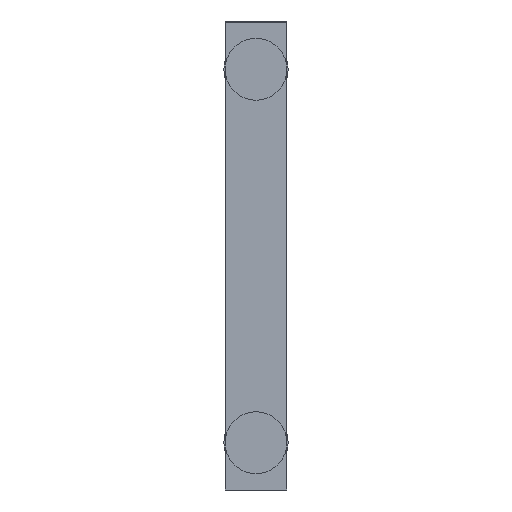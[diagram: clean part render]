
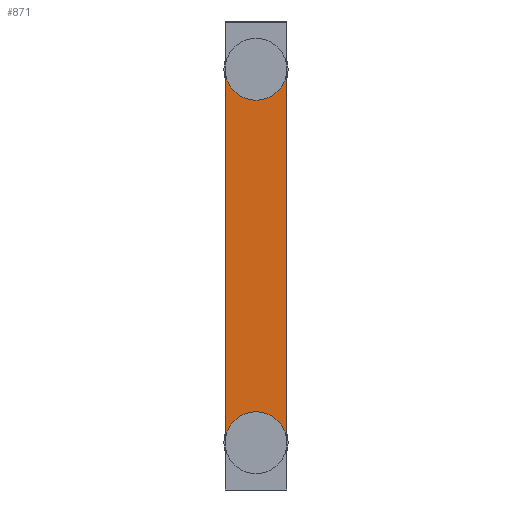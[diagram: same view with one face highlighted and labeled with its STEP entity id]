
A CAD part, front view. The second image highlights one B-rep face of the part: STEP entity #871.
In plain terms, the highlighted planar face has unit normal (0, -1, 0).
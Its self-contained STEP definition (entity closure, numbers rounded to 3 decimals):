
#21 = CARTESIAN_POINT ( 'NONE',  ( -9.35, -36.997, 12.992 ) ) ;
#24 = VECTOR ( 'NONE', #628, 1000. ) ;
#72 = CARTESIAN_POINT ( 'NONE',  ( -12., -36.998, 44.992 ) ) ;
#102 = ORIENTED_EDGE ( 'NONE', *, *, #847, .F. ) ;
#133 = VECTOR ( 'NONE', #951, 1000. ) ;
#172 = DIRECTION ( 'NONE',  ( 0., -1., 0. ) ) ;
#234 = CARTESIAN_POINT ( 'NONE',  ( -14.65, -36.997, 12.992 ) ) ;
#240 = EDGE_CURVE ( 'NONE', #864, #934, #1147, .T. ) ;
#276 = CARTESIAN_POINT ( 'NONE',  ( -14.65, -36.998, 44.992 ) ) ;
#339 = EDGE_LOOP ( 'NONE', ( #102, #1183, #941, #956 ) ) ;
#352 = CARTESIAN_POINT ( 'NONE',  ( -12., -36.997, 12.992 ) ) ;
#363 = VERTEX_POINT ( 'NONE', #276 ) ;
#369 = CARTESIAN_POINT ( 'NONE',  ( -9.35, -36.998, 44.992 ) ) ;
#388 = CIRCLE ( 'NONE', #1293, 2.65 ) ;
#440 = LINE ( 'NONE', #1042, #133 ) ;
#472 = AXIS2_PLACEMENT_3D ( 'NONE', #72, #172, #776 ) ;
#528 = DIRECTION ( 'NONE',  ( -1., 0., 0. ) ) ;
#627 = DIRECTION ( 'NONE',  ( 0., 1., 0. ) ) ;
#628 = DIRECTION ( 'NONE',  ( 0., 0., -1. ) ) ;
#676 = CIRCLE ( 'NONE', #472, 2.65 ) ;
#686 = EDGE_CURVE ( 'NONE', #363, #998, #440, .T. ) ;
#752 = EDGE_CURVE ( 'NONE', #998, #934, #388, .T. ) ;
#769 = FACE_OUTER_BOUND ( 'NONE', #339, .T. ) ;
#776 = DIRECTION ( 'NONE',  ( 1., 0., 0. ) ) ;
#847 = EDGE_CURVE ( 'NONE', #363, #864, #676, .T. ) ;
#864 = VERTEX_POINT ( 'NONE', #369 ) ;
#871 = ADVANCED_FACE ( 'NONE', ( #769 ), #1079, .F. ) ;
#934 = VERTEX_POINT ( 'NONE', #21 ) ;
#941 = ORIENTED_EDGE ( 'NONE', *, *, #752, .T. ) ;
#951 = DIRECTION ( 'NONE',  ( 0., 0., -1. ) ) ;
#956 = ORIENTED_EDGE ( 'NONE', *, *, #240, .F. ) ;
#981 = DIRECTION ( 'NONE',  ( 0., 0., 1. ) ) ;
#998 = VERTEX_POINT ( 'NONE', #234 ) ;
#1042 = CARTESIAN_POINT ( 'NONE',  ( -14.65, -36.998, 28.992 ) ) ;
#1079 = PLANE ( 'NONE',  #1088 ) ;
#1088 = AXIS2_PLACEMENT_3D ( 'NONE', #1177, #1162, #981 ) ;
#1147 = LINE ( 'NONE', #1152, #24 ) ;
#1152 = CARTESIAN_POINT ( 'NONE',  ( -9.35, -36.998, 28.992 ) ) ;
#1162 = DIRECTION ( 'NONE',  ( 0., 1., 0. ) ) ;
#1177 = CARTESIAN_POINT ( 'NONE',  ( -9.35, -36.998, 28.992 ) ) ;
#1183 = ORIENTED_EDGE ( 'NONE', *, *, #686, .T. ) ;
#1293 = AXIS2_PLACEMENT_3D ( 'NONE', #352, #627, #528 ) ;
